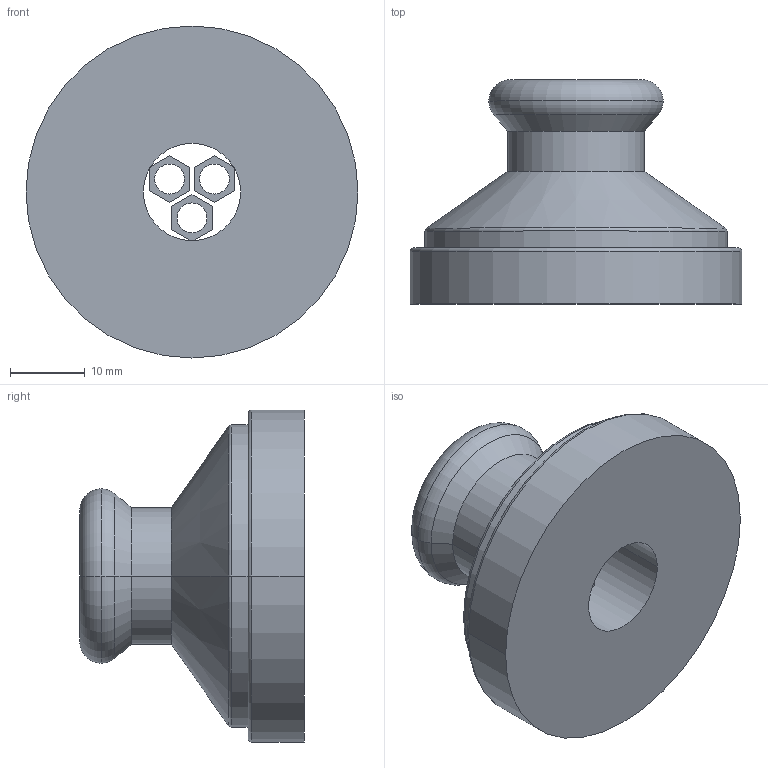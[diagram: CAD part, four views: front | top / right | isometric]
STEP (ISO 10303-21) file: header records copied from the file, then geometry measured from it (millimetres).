
FILE_DESCRIPTION(('OneSpaceDesigner STEP Export'),'2;1');
FILE_NAME('R2736 15x1 1-2.stp','2010-06-10T13:59:47',(''),(''),'OneSpace Designer STEP processor for AP214 (Solid Model)','OneSpace Modeling 15.00A 14-Mar-2007 (C) CoCreate Software GmbH','');
FILE_SCHEMA(('AUTOMOTIVE_DESIGN { 1 0 10303 214 1 1 1 1 }'));
Length unit declared in the file: millimetre
Products named in the file (2): R2736_15x1.1-2
Assembly tree (1 placements, depth 2):
  R2736_15x1.1-2
    R2736_15x1.1-2
Bounding box: 44.4 x 30 x 44.4 mm (x, y, z)
Volume: 19339.5 mm3; surface area: 7862.9 mm2
Topology: 1 solids, 1 shells, 67 faces, 161 edges, 102 vertices
Faces by surface type: plane 32, cylinder 21, torus 8, cone 6
Entity records: 1776 total; most frequent: ORIENTED_EDGE 322, CARTESIAN_POINT 284, DIRECTION 271, EDGE_CURVE 161, VERTEX_POINT 102, VECTOR 93, LINE 93, AXIS2_PLACEMENT_3D 89
